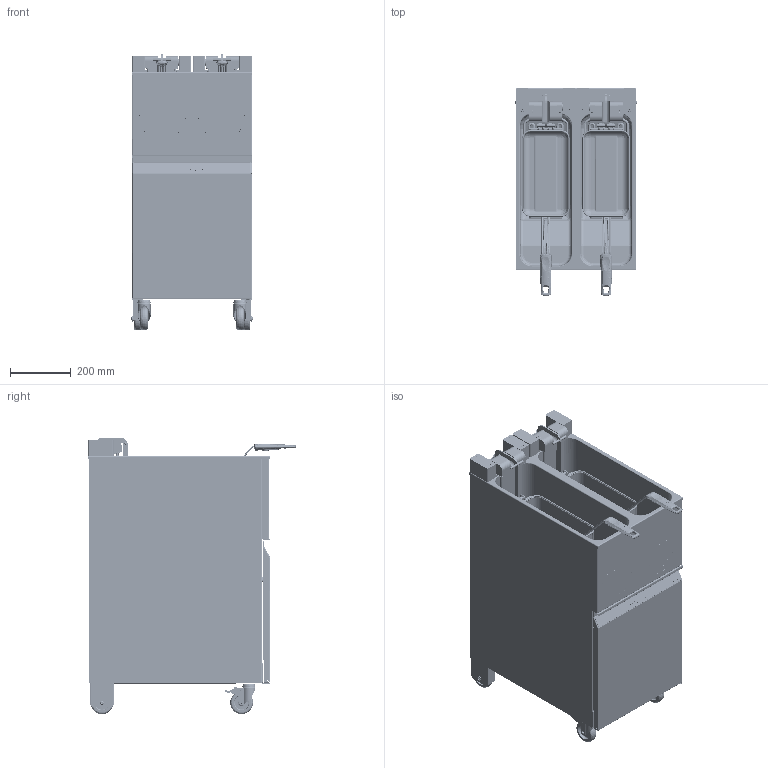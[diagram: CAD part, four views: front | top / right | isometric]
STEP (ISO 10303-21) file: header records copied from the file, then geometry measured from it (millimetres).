
FILE_DESCRIPTION(/* description */ (''),/* implementation_level */ '2;1');
FILE_NAME(/* name */ 'CORE SMART 2200',/* time_stamp */ '2025-10-22T13:17:58+02:00',/* author */ (''),/* organization */ (''),/* preprocessor_version */ 'ST-DEVELOPER v19.2',/* originating_system */ 'Rhino 8.23',/* authorisation */ '');
FILE_SCHEMA (('CONFIG_CONTROL_DESIGN'));
Products named in the file (1): Document
Bounding box: 399.8 x 684.84 x 910.4 mm (x, y, z)
Volume: 7428926.7 mm3; surface area: 10358494.8 mm2
Topology: 227 solids, 235 shells, 9640 faces, 24212 edges, 15121 vertices
Faces by surface type: plane 3831, cylinder 3392, bspline 2417
Full cylindrical faces by diameter (mm): 27 x2
Entity records: 508684 total; most frequent: CARTESIAN_POINT 311132, ORIENTED_EDGE 48194, EDGE_CURVE 24124, DIRECTION 23633, AXIS2_PLACEMENT_3D 15428, B_SPLINE_CURVE_WITH_KNOTS 15326, VERTEX_POINT 15121, EDGE_LOOP 10589
